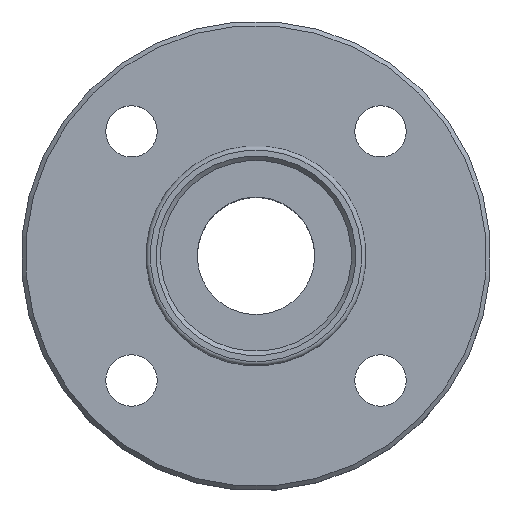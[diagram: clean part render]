
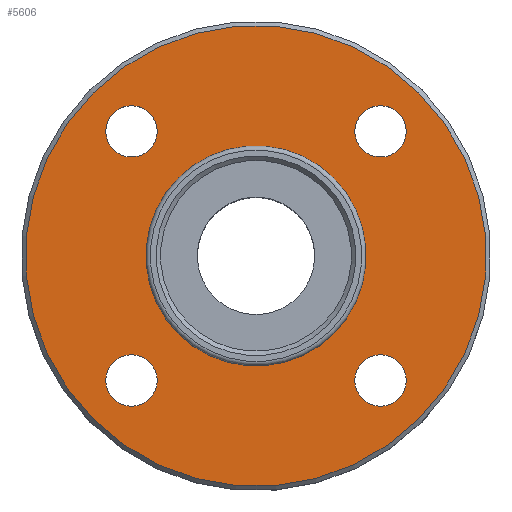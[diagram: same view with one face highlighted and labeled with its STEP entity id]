
A CAD part, top view. The second image highlights one B-rep face of the part: STEP entity #5606.
In plain terms, the highlighted planar face has unit normal (0, 0, 1).
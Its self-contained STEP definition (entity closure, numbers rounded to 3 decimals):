
#129=CIRCLE('',#5972,7.5);
#138=CIRCLE('',#5986,15.7);
#139=CIRCLE('',#5987,1.75);
#140=CIRCLE('',#5988,1.75);
#141=CIRCLE('',#5989,1.75);
#142=CIRCLE('',#5990,1.75);
#543=ORIENTED_EDGE('',*,*,#2146,.T.);
#544=ORIENTED_EDGE('',*,*,#2147,.F.);
#545=ORIENTED_EDGE('',*,*,#2148,.F.);
#546=ORIENTED_EDGE('',*,*,#2149,.F.);
#547=ORIENTED_EDGE('',*,*,#2150,.F.);
#548=ORIENTED_EDGE('',*,*,#2137,.T.);
#2137=EDGE_CURVE('',#2939,#2939,#129,.F.);
#2146=EDGE_CURVE('',#2948,#2948,#138,.T.);
#2147=EDGE_CURVE('',#2949,#2949,#139,.T.);
#2148=EDGE_CURVE('',#2950,#2950,#140,.T.);
#2149=EDGE_CURVE('',#2951,#2951,#141,.T.);
#2150=EDGE_CURVE('',#2952,#2952,#142,.T.);
#2939=VERTEX_POINT('',#8886);
#2948=VERTEX_POINT('',#8909);
#2949=VERTEX_POINT('',#8911);
#2950=VERTEX_POINT('',#8913);
#2951=VERTEX_POINT('',#8915);
#2952=VERTEX_POINT('',#8917);
#4564=EDGE_LOOP('',(#543));
#4565=EDGE_LOOP('',(#544));
#4566=EDGE_LOOP('',(#545));
#4567=EDGE_LOOP('',(#546));
#4568=EDGE_LOOP('',(#547));
#4569=EDGE_LOOP('',(#548));
#4988=FACE_BOUND('',#4564,.T.);
#4989=FACE_BOUND('',#4565,.T.);
#4990=FACE_BOUND('',#4566,.T.);
#4991=FACE_BOUND('',#4567,.T.);
#4992=FACE_BOUND('',#4568,.T.);
#4993=FACE_BOUND('',#4569,.T.);
#5352=PLANE('',#5985);
#5606=ADVANCED_FACE('',(#4988,#4989,#4990,#4991,#4992,#4993),#5352,.T.);
#5972=AXIS2_PLACEMENT_3D('',#8885,#6497,#6498);
#5985=AXIS2_PLACEMENT_3D('',#8907,#6523,#6524);
#5986=AXIS2_PLACEMENT_3D('',#8908,#6525,#6526);
#5987=AXIS2_PLACEMENT_3D('',#8910,#6527,#6528);
#5988=AXIS2_PLACEMENT_3D('',#8912,#6529,#6530);
#5989=AXIS2_PLACEMENT_3D('',#8914,#6531,#6532);
#5990=AXIS2_PLACEMENT_3D('',#8916,#6533,#6534);
#6497=DIRECTION('',(0.,0.,1.));
#6498=DIRECTION('',(0.707,-0.707,0.));
#6523=DIRECTION('',(0.,0.,1.));
#6524=DIRECTION('',(0.707,-0.707,0.));
#6525=DIRECTION('',(0.,0.,1.));
#6526=DIRECTION('',(0.707,-0.707,0.));
#6527=DIRECTION('',(0.,0.,1.));
#6528=DIRECTION('',(0.707,-0.707,0.));
#6529=DIRECTION('',(0.,0.,1.));
#6530=DIRECTION('',(0.707,-0.707,0.));
#6531=DIRECTION('',(0.,0.,1.));
#6532=DIRECTION('',(0.707,-0.707,0.));
#6533=DIRECTION('',(0.,0.,1.));
#6534=DIRECTION('',(0.707,-0.707,0.));
#8885=CARTESIAN_POINT('',(0.,0.,0.));
#8886=CARTESIAN_POINT('',(5.303,-5.303,0.));
#8907=CARTESIAN_POINT('',(0.,0.,0.));
#8908=CARTESIAN_POINT('',(0.,0.,0.));
#8909=CARTESIAN_POINT('',(11.102,-11.102,0.));
#8910=CARTESIAN_POINT('',(8.485,8.485,0.));
#8911=CARTESIAN_POINT('',(9.723,7.248,0.));
#8912=CARTESIAN_POINT('',(-8.485,8.485,0.));
#8913=CARTESIAN_POINT('',(-7.248,7.248,0.));
#8914=CARTESIAN_POINT('',(-8.485,-8.485,0.));
#8915=CARTESIAN_POINT('',(-7.248,-9.723,0.));
#8916=CARTESIAN_POINT('',(8.485,-8.485,0.));
#8917=CARTESIAN_POINT('',(9.723,-9.723,0.));
